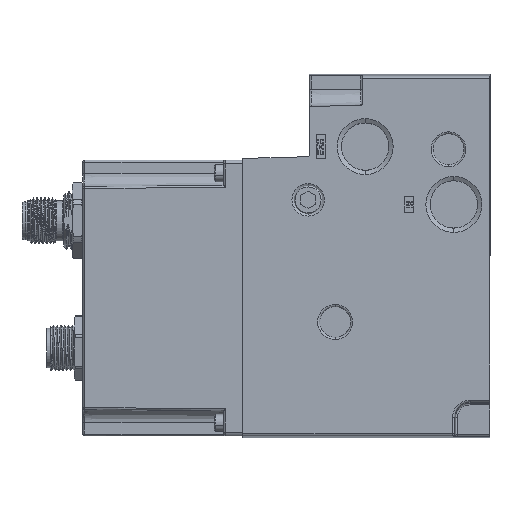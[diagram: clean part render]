
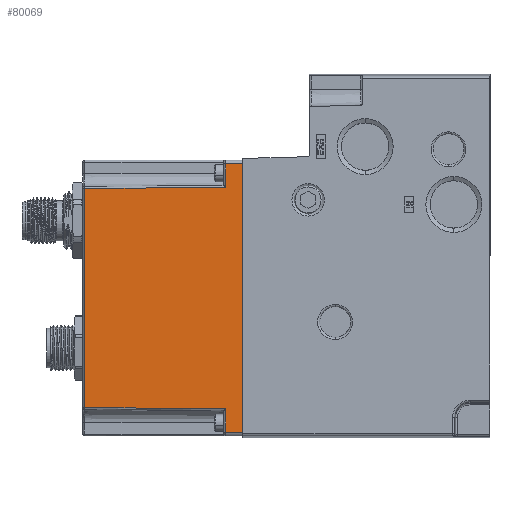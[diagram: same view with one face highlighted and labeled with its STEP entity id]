
A CAD part, left-side view. The second image highlights one B-rep face of the part: STEP entity #80069.
In plain terms, the highlighted planar face has unit normal (-1, 0, 0) as drawn and (0, 0, -1) by its records, which use the part's own axes.
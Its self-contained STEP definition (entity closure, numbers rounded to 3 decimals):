
#4643 = CARTESIAN_POINT ( 'NONE',  ( -29.104, 4.5, -13.4 ) ) ;
#5032 = VECTOR ( 'NONE', #128000, 1000. ) ;
#5334 = ORIENTED_EDGE ( 'NONE', *, *, #127753, .T. ) ;
#5521 = AXIS2_PLACEMENT_3D ( 'NONE', #107145, #69831, #6788 ) ;
#6788 = DIRECTION ( 'NONE',  ( 1., 0., 0. ) ) ;
#7097 = VERTEX_POINT ( 'NONE', #20272 ) ;
#17752 = EDGE_CURVE ( 'NONE', #35772, #84182, #84688, .T. ) ;
#20272 = CARTESIAN_POINT ( 'NONE',  ( 35.25, 0., -13.4 ) ) ;
#21590 = ORIENTED_EDGE ( 'NONE', *, *, #131269, .T. ) ;
#23932 = ORIENTED_EDGE ( 'NONE', *, *, #32332, .T. ) ;
#24480 = CARTESIAN_POINT ( 'NONE',  ( -36.25, 4.5, -13.4 ) ) ;
#29658 = ORIENTED_EDGE ( 'NONE', *, *, #139735, .T. ) ;
#32332 = EDGE_CURVE ( 'NONE', #131273, #69602, #63355, .T. ) ;
#33360 = CARTESIAN_POINT ( 'NONE',  ( 28.781, 41.5, -13.4 ) ) ;
#34212 = DIRECTION ( 'NONE',  ( 0., -1., 0. ) ) ;
#34875 = CARTESIAN_POINT ( 'NONE',  ( -28.778, 41.935, -13.4 ) ) ;
#35772 = VERTEX_POINT ( 'NONE', #4643 ) ;
#37841 = CARTESIAN_POINT ( 'NONE',  ( 35.25, 4.5, -13.4 ) ) ;
#39349 = LINE ( 'NONE', #125595, #143554 ) ;
#46648 = CARTESIAN_POINT ( 'NONE',  ( 35.25, 42., -13.4 ) ) ;
#47093 = VERTEX_POINT ( 'NONE', #33360 ) ;
#52488 = ORIENTED_EDGE ( 'NONE', *, *, #122982, .T. ) ;
#59117 = VECTOR ( 'NONE', #163533, 1000. ) ;
#63135 = ORIENTED_EDGE ( 'NONE', *, *, #17752, .T. ) ;
#63355 = LINE ( 'NONE', #79111, #5032 ) ;
#65851 = DIRECTION ( 'NONE',  ( 0.009, -1., 0. ) ) ;
#66725 = VECTOR ( 'NONE', #143777, 1000. ) ;
#66963 = EDGE_LOOP ( 'NONE', ( #126169, #23932, #52488, #29658, #119612, #5334, #63135, #21590 ) ) ;
#69602 = VERTEX_POINT ( 'NONE', #37841 ) ;
#69831 = DIRECTION ( 'NONE',  ( 0., 0., 1. ) ) ;
#70754 = LINE ( 'NONE', #46648, #157319 ) ;
#76090 = CARTESIAN_POINT ( 'NONE',  ( -35.25, 4.5, -13.4 ) ) ;
#77394 = CARTESIAN_POINT ( 'NONE',  ( -36.25, 41.5, -13.4 ) ) ;
#78008 = VECTOR ( 'NONE', #89966, 1000. ) ;
#79111 = CARTESIAN_POINT ( 'NONE',  ( -36.25, 4.5, -13.4 ) ) ;
#79169 = LINE ( 'NONE', #94886, #66725 ) ;
#80069 = ADVANCED_FACE ( 'NONE', ( #120405 ), #108815, .F. ) ;
#83003 = CARTESIAN_POINT ( 'NONE',  ( -28.781, 41.5, -13.4 ) ) ;
#84182 = VERTEX_POINT ( 'NONE', #83003 ) ;
#84688 = LINE ( 'NONE', #34875, #150827 ) ;
#86516 = VECTOR ( 'NONE', #105488, 1000. ) ;
#89966 = DIRECTION ( 'NONE',  ( 1., 0., 0. ) ) ;
#94886 = CARTESIAN_POINT ( 'NONE',  ( -36.25, 0., -13.4 ) ) ;
#105488 = DIRECTION ( 'NONE',  ( 1., 0., 0. ) ) ;
#107145 = CARTESIAN_POINT ( 'NONE',  ( -36.25, 42., -13.4 ) ) ;
#108815 = PLANE ( 'NONE',  #5521 ) ;
#113059 = CARTESIAN_POINT ( 'NONE',  ( -35.25, 42., -13.4 ) ) ;
#116313 = CARTESIAN_POINT ( 'NONE',  ( 29.104, 4.5, -13.4 ) ) ;
#119612 = ORIENTED_EDGE ( 'NONE', *, *, #121542, .T. ) ;
#120405 = FACE_OUTER_BOUND ( 'NONE', #66963, .T. ) ;
#121542 = EDGE_CURVE ( 'NONE', #157743, #148602, #126253, .T. ) ;
#122982 = EDGE_CURVE ( 'NONE', #69602, #7097, #70754, .T. ) ;
#125595 = CARTESIAN_POINT ( 'NONE',  ( 28.772, 42.567, -13.4 ) ) ;
#126169 = ORIENTED_EDGE ( 'NONE', *, *, #139551, .T. ) ;
#126253 = LINE ( 'NONE', #113059, #59117 ) ;
#127753 = EDGE_CURVE ( 'NONE', #148602, #35772, #138079, .T. ) ;
#128000 = DIRECTION ( 'NONE',  ( 1., 0., 0. ) ) ;
#131269 = EDGE_CURVE ( 'NONE', #84182, #47093, #142000, .T. ) ;
#131273 = VERTEX_POINT ( 'NONE', #116313 ) ;
#136046 = DIRECTION ( 'NONE',  ( 0.009, 1., 0. ) ) ;
#138079 = LINE ( 'NONE', #24480, #78008 ) ;
#139551 = EDGE_CURVE ( 'NONE', #47093, #131273, #39349, .T. ) ;
#139735 = EDGE_CURVE ( 'NONE', #7097, #157743, #79169, .T. ) ;
#142000 = LINE ( 'NONE', #77394, #86516 ) ;
#143554 = VECTOR ( 'NONE', #65851, 1000. ) ;
#143777 = DIRECTION ( 'NONE',  ( -1., 0., 0. ) ) ;
#148346 = CARTESIAN_POINT ( 'NONE',  ( -35.25, 0., -13.4 ) ) ;
#148602 = VERTEX_POINT ( 'NONE', #76090 ) ;
#150827 = VECTOR ( 'NONE', #136046, 1000. ) ;
#157319 = VECTOR ( 'NONE', #34212, 1000. ) ;
#157743 = VERTEX_POINT ( 'NONE', #148346 ) ;
#163533 = DIRECTION ( 'NONE',  ( 0., 1., 0. ) ) ;
